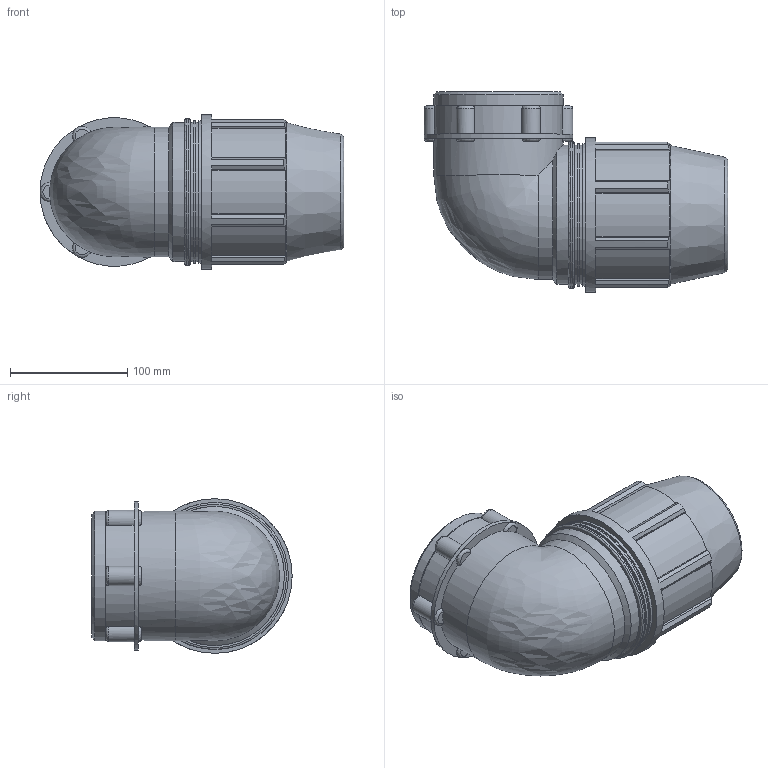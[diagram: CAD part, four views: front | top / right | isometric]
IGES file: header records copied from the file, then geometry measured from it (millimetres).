
Global section: file name: 871500075030_181500075030_841506075030.ipt; native system: Autodesk Inventor 2015; preprocessor: unknown; author: KIM; date: 20180325.201243; units: millimetre
Bounding box: 259.48 x 171 x 132 mm (x, y, z)
Volume: 1699018.8 mm3; surface area: 201911.2 mm2
Topology: 1 solids, 1 shells, 138 faces, 373 edges, 244 vertices
Faces by surface type: plane 71, cylinder 37, revolution 22, cone 6, bspline 2
Full cylindrical faces by diameter (mm): 110.404 x2, 118.8 x3, 121.638 x2, 125.4 x1, 126.964 x1, 132 x1
